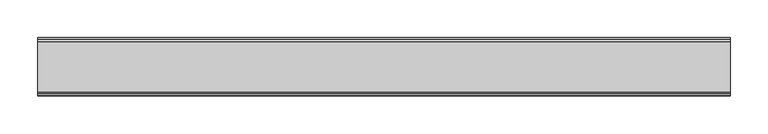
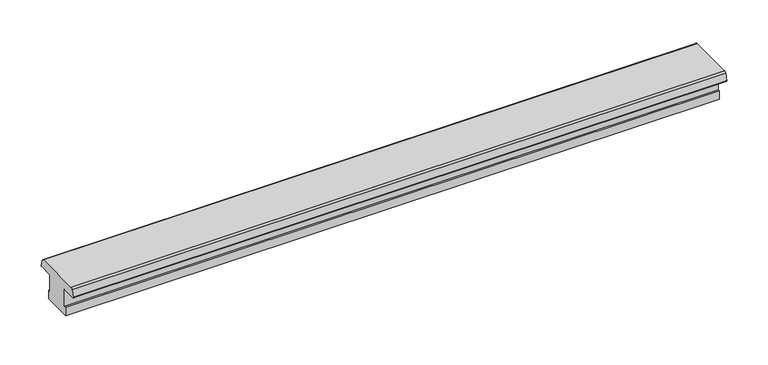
"""IFC4 building model written with IfcOpenShell, lengths in millimetres: proxy geometry, Weiku - Montante - Divisor 02.2.01.040 : Weiku - Montante - Divisor 02.2.01.040."""

import ifcopenshell
import ifcopenshell.guid

model = None  # the IFC model being written
_history = None  # IfcOwnerHistory: only IFC2X3 demands one
_inside = {}  # id of a spatial element -> (the spatial element, [elements in it])
_under = {}  # id of a project, library or spatial element -> (it, [spatial elements below it])
_declared = {}  # id of a project -> (the project, [libraries it declares])
_typed = {}  # id of a type object -> (the type object, [elements of that type])
_made_of = {}  # id of a material, layer set ... -> (it, [elements and type objects made of it])


def new_model(schema):
    """Start an empty IFC model of exactly this schema.

    Asked for "IFC4X3", IfcOpenShell would pick the latest addendum, in which some entities
    have other attributes; the version numbers below select the first issue.
    IFC2X3 requires an IfcOwnerHistory on every rooted entity: one is made here for all.
    """
    global model, _history
    if schema == "IFC4X3":
        model = ifcopenshell.file(schema_version=(4, 3, 0, 0))
    else:
        model = ifcopenshell.file(schema=schema)
    _inside.clear()
    _under.clear()
    _declared.clear()
    _typed.clear()
    _made_of.clear()
    _history = None
    if model.schema == "IFC2X3":
        org = make("IfcOrganization", Name="unknown")
        user = make(
            "IfcPersonAndOrganization",
            ThePerson=make("IfcPerson", FamilyName="unknown"),
            TheOrganization=org,
        )
        app = make(
            "IfcApplication",
            ApplicationDeveloper=org,
            Version="unknown",
            ApplicationFullName="unknown",
            ApplicationIdentifier="unknown",
        )
        _history = make(
            "IfcOwnerHistory",
            OwningUser=user,
            OwningApplication=app,
            ChangeAction="ADDED",
            CreationDate=0,
        )
    return model


def make(cls, **values):
    """One entity of the class cls with the attributes given. An attribute that is None is left unset."""
    return model.create_entity(
        cls, **{name: value for name, value in values.items() if value is not None}
    )


def rooted(cls, **values):
    """An entity with a GlobalId (a new one), such as an element, a storey or a relation."""
    return make(cls, GlobalId=ifcopenshell.guid.new(), OwnerHistory=_history, **values)


def si_unit(unit_type, name, prefix=None):
    """IfcSIUnit, for example si_unit("LENGTHUNIT", "METRE", prefix="MILLI")."""
    return make("IfcSIUnit", UnitType=unit_type, Prefix=prefix, Name=name)


def assignment(units):
    """IfcUnitAssignment: the units of a project."""
    return None if units is None else make("IfcUnitAssignment", Units=units)


def point(xyz):
    """IfcCartesianPoint."""
    return None if xyz is None else make("IfcCartesianPoint", Coordinates=xyz)


def direction(xyz):
    """IfcDirection."""
    return None if xyz is None else make("IfcDirection", DirectionRatios=xyz)


def frame(location, z_axis=None, x_axis=None):
    """IfcAxis2Placement3D, a coordinate frame: its origin and axes. An axis left out is left unset."""
    return make(
        "IfcAxis2Placement3D",
        Location=point(location),
        Axis=direction(z_axis),
        RefDirection=direction(x_axis),
    )


def frame_2d(location, x_axis=None):
    """IfcAxis2Placement2D, a coordinate frame in the plane: its origin and x axis."""
    return make(
        "IfcAxis2Placement2D", Location=point(location), RefDirection=direction(x_axis)
    )


def origin():
    """The frame at (0, 0, 0) with its axes left unset."""
    return frame((0.0, 0.0, 0.0))


def place(relative_to, where):
    """IfcLocalPlacement: puts the frame where relative to a parent placement (None: the world)."""
    return make(
        "IfcLocalPlacement", PlacementRelTo=relative_to, RelativePlacement=where
    )


def context(
    kind, dimensions, precision=None, world=None, true_north=None, identifier=None
):
    """IfcGeometricRepresentationContext, for example the 3D "Model" context."""
    return make(
        "IfcGeometricRepresentationContext",
        ContextIdentifier=identifier,
        ContextType=kind,
        CoordinateSpaceDimension=dimensions,
        Precision=precision,
        WorldCoordinateSystem=world,
        TrueNorth=true_north,
    )


def project(units=None, contexts=None):
    """IfcProject with its units and contexts."""
    return rooted(
        "IfcProject",
        Name="project",
        RepresentationContexts=contexts,
        UnitsInContext=assignment(units),
    )


def spatial(cls, under=None, at=None, **own):
    """A site, building, storey or space (cls), placed at a placement, below another one or the project."""
    s = rooted(cls, ObjectPlacement=at, **own)
    if under is not None:
        _under.setdefault(under.id(), (under, []))[1].append(s)
    return s


def polyline(points):
    """IfcPolyline through the points."""
    return make("IfcPolyline", Points=[point(p) for p in points])


def circle_curve(where, radius):
    """IfcCircle in the frame where."""
    return make("IfcCircle", Position=where, Radius=radius)


def trimmed(basis, trim1, trim2, sense, master):
    """IfcTrimmedCurve: the piece of a basis curve between two trims."""
    return make(
        "IfcTrimmedCurve",
        BasisCurve=basis,
        Trim1=trim1,
        Trim2=trim2,
        SenseAgreement=sense,
        MasterRepresentation=master,
    )


def segment(curve, same_sense, transition):
    """IfcCompositeCurveSegment."""
    return make(
        "IfcCompositeCurveSegment",
        Transition=transition,
        SameSense=same_sense,
        ParentCurve=curve,
    )


def composite_curve(segments, self_intersect=None):
    """IfcCompositeCurve: segments joined end to end."""
    return make("IfcCompositeCurve", Segments=segments, SelfIntersect=self_intersect)


def outline(outer, holes=None, kind="AREA"):
    """IfcArbitraryClosedProfileDef: a profile drawn as a closed curve; with holes, ...WithVoids."""
    if holes is None:
        return make("IfcArbitraryClosedProfileDef", ProfileType=kind, OuterCurve=outer)
    return make(
        "IfcArbitraryProfileDefWithVoids",
        ProfileType=kind,
        OuterCurve=outer,
        InnerCurves=holes,
    )


def extrude(swept, where, along, depth):
    """IfcExtrudedAreaSolid: the profile swept, set in the frame where, extruded along a direction by depth."""
    return make(
        "IfcExtrudedAreaSolid",
        SweptArea=swept,
        Position=where,
        ExtrudedDirection=direction(along),
        Depth=depth,
    )


def shape(context_of_items, identifier, shape_type, items):
    """IfcShapeRepresentation: the items that make up one representation, for example the "Body"."""
    return make(
        "IfcShapeRepresentation",
        ContextOfItems=context_of_items,
        RepresentationIdentifier=identifier,
        RepresentationType=shape_type,
        Items=items,
    )


def source(mapping_origin, context_of_items, identifier, shape_type, items):
    """IfcRepresentationMap: a shape defined once, which mapped items show again and again."""
    return make(
        "IfcRepresentationMap",
        MappingOrigin=mapping_origin,
        MappedRepresentation=shape(context_of_items, identifier, shape_type, items),
    )


def transform(
    local_origin,
    x_axis=None,
    y_axis=None,
    z_axis=None,
    scale=None,
    scale2=None,
    scale3=None,
    uniform=True,
):
    """IfcCartesianTransformationOperator3D, or its non-uniform kind. x_axis, y_axis, z_axis: its Axis1, 2, 3."""
    if uniform:
        return make(
            "IfcCartesianTransformationOperator3D",
            Axis1=direction(x_axis),
            Axis2=direction(y_axis),
            LocalOrigin=point(local_origin),
            Scale=scale,
            Axis3=direction(z_axis),
        )
    return make(
        "IfcCartesianTransformationOperator3DnonUniform",
        Axis1=direction(x_axis),
        Axis2=direction(y_axis),
        LocalOrigin=point(local_origin),
        Scale=scale,
        Axis3=direction(z_axis),
        Scale2=scale2,
        Scale3=scale3,
    )


def mapped(mapping_source, mapping_target):
    """IfcMappedItem: shows the shape of a source again, moved by a transform."""
    return make(
        "IfcMappedItem", MappingSource=mapping_source, MappingTarget=mapping_target
    )


def made_of(thing, what):
    """Note that an element or type object is made of a material, layer set ...; save() writes the relation."""
    if what is not None:
        _made_of.setdefault(what.id(), (what, []))[1].append(thing)
    return thing


def element(
    cls,
    number,
    at=None,
    inside=None,
    cuts=None,
    type_object=None,
    material=None,
    context=None,
    identifier="Body",
    shape_type=None,
    held_by="IfcProductDefinitionShape",
    body=None,
    shapes=None,
    **own,
):
    """One element of the class cls, such as IfcWall. Its Tag is "e" and its number.

    at: its placement. inside: the storey or other place that contains it. cuts: it is an
    opening in that element (IfcRelVoidsElement). A single representation is given by context,
    identifier, shape_type and body (its items); several are given by shapes. held_by: the class
    of the entity that holds the representations. save() writes the other relations.
    """
    e = rooted(cls, Tag="e%d" % number, ObjectPlacement=at, **own)
    if body is not None:
        shapes = [shape(context, identifier, shape_type, body)]
    if shapes is not None:
        e.Representation = make(held_by, Representations=shapes)
    if inside is not None:
        _inside.setdefault(inside.id(), (inside, []))[1].append(e)
    if cuts is not None:
        rooted(
            "IfcRelVoidsElement", RelatingBuildingElement=cuts, RelatedOpeningElement=e
        )
    if type_object is not None:
        _typed.setdefault(type_object.id(), (type_object, []))[1].append(e)
    return made_of(e, material)


def aggregate(whole, parts):
    """IfcRelAggregates: a whole, such as a stair, and the parts it consists of."""
    return rooted("IfcRelAggregates", RelatingObject=whole, RelatedObjects=parts)


def save(model, path):
    """Write the relations noted so far, then the file.

    IfcRelAggregates (storeys below a building ...), IfcRelContainedInSpatialStructure (elements
    in a storey), IfcRelDefinesByType, IfcRelAssociatesMaterial and IfcRelDeclares: one each for
    every whole, place, type object, material and project.
    """
    for whole, parts in _under.values():
        aggregate(whole, parts)
    for where, things in _inside.values():
        rooted(
            "IfcRelContainedInSpatialStructure",
            RelatedElements=things,
            RelatingStructure=where,
        )
    for kind, things in _typed.values():
        rooted("IfcRelDefinesByType", RelatedObjects=things, RelatingType=kind)
    for what, things in _made_of.values():
        rooted("IfcRelAssociatesMaterial", RelatedObjects=things, RelatingMaterial=what)
    for by, libraries in _declared.values():
        rooted("IfcRelDeclares", RelatingContext=by, RelatedDefinitions=libraries)
    model.write(path)


def generic_models_89f0a2d6(model_context):
    return source(origin(), model_context, "Body", "SweptSolid", [
        extrude(outline(composite_curve([segment(polyline([(-33.0007245, 50.0), (33.0007245, 50.0)]), True, "CONTINUOUS"), segment(trimmed(circle_curve(frame_2d((33.0007245, 47.0)), 3.0), [point((33.0007245, 50.0))], [point((35.898502, 47.7764571))], False, "CARTESIAN"), True, "CONTINUOUS"), segment(polyline([(35.898502, 47.7764571), (38.4496907, 38.2552914)]), True, "CONTINUOUS"), segment(trimmed(circle_curve(frame_2d((37.8701352, 38.1)), 0.6), [point((38.4496907, 38.2552914))], [point((37.8701352, 37.5))], False, "CARTESIAN"), True, "CONTINUOUS"), segment(polyline([(37.8701352, 37.5), (17.5004577, 37.5), (17.5004577, 12.168694), (20.5, 12.972419), (20.5, 0.0), (-20.5, 0.0), (-20.5, 12.972419), (-17.5004577, 12.168694), (-17.5004577, 37.5), (-37.8701352, 37.5)]), True, "CONTINUOUS"), segment(trimmed(circle_curve(frame_2d((-37.8701352, 38.1)), 0.6), [point((-37.8701352, 37.5))], [point((-38.4496907, 38.2552914))], False, "CARTESIAN"), True, "CONTINUOUS"), segment(polyline([(-38.4496907, 38.2552914), (-35.898502, 47.7764571)]), True, "CONTINUOUS"), segment(trimmed(circle_curve(frame_2d((-33.0007245, 47.0)), 3.0), [point((-35.898502, 47.7764571))], [point((-33.0007245, 50.0))], False, "CARTESIAN"), True, "CONTINUOUS")], self_intersect=False)), frame((-456.5, 0.0, 0.0), z_axis=(1.0, 0.0, 0.0), x_axis=(0.0, 1.0, 0.0)), (0.0, 0.0, 1.0), 913.0),
    ])


if __name__ == "__main__":
    model = new_model("IFC4")
    model_context = context("Model", 3, world=origin())
    ifc_project = project(units=[si_unit("LENGTHUNIT", "METRE", prefix="MILLI")], contexts=[model_context])
    site = spatial("IfcSite", under=ifc_project)
    building = spatial("IfcBuilding", under=site)
    placement = place(None, origin())
    generic_models_shape = generic_models_89f0a2d6(model_context)
    element("IfcBuildingElementProxy", 1, Name="Weiku - Montante - Divisor 02.2.01.040 : Weiku - Montante - Divisor 02.2.01.040", ObjectType="Weiku - Montante - Divisor 02.2.01.040 : Weiku - Montante - Divisor 02.2.01.040", at=placement, inside=building, context=model_context, shape_type="MappedRepresentation", body=[
        mapped(generic_models_shape, transform((0.0, 0.0, 0.0), x_axis=(1.0, 0.0, 0.0), y_axis=(0.0, 1.0, 0.0), z_axis=(0.0, 0.0, 1.0))),
    ])
    save(model, "model.ifc")
